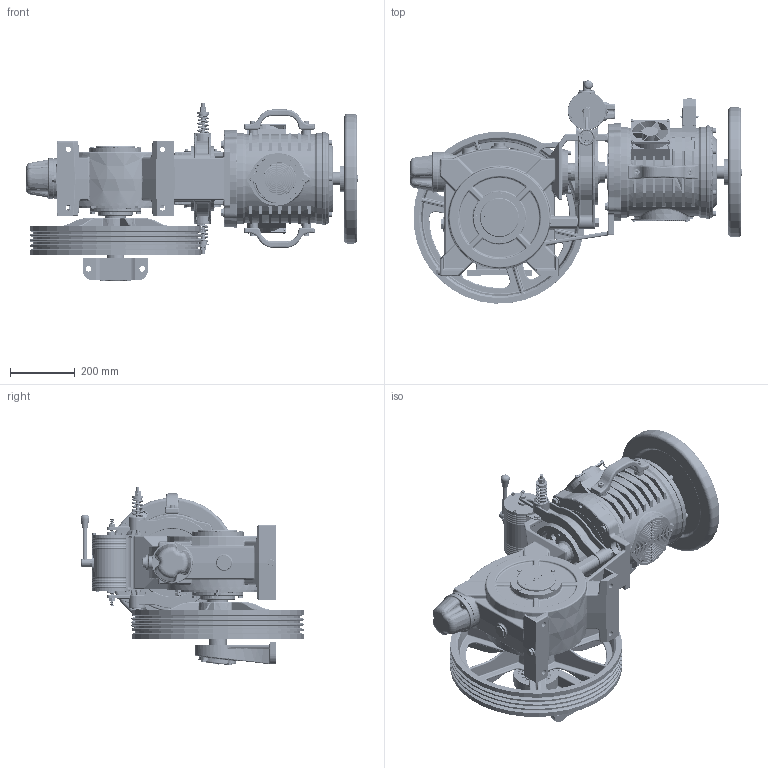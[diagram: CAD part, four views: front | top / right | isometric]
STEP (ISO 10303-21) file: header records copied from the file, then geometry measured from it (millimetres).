
FILE_DESCRIPTION (( 'STEP AP214' ), '1' );
FILE_NAME ('ELTC40100.STEP', '2026-01-20T05:51:05', ( '' ), ( '' ), 'SwSTEP 2.0', 'SolidWorks 2023', '' );
FILE_SCHEMA (( 'AUTOMOTIVE_DESIGN' ));
Length unit declared in the file: millimetre
Products named in the file (1): ELTC40100
Bounding box: 1022.68 x 687 x 549.43 mm (x, y, z)
Volume: 51149738.2 mm3; surface area: 5124593.3 mm2
Topology: 179 solids, 190 shells, 9916 faces, 24735 edges, 15209 vertices
Faces by surface type: cylinder 3512, plane 2808, bspline 1291, cone 1081, torus 993, sphere 231
Entity records: 555660 total; most frequent: CARTESIAN_POINT 333639, ORIENTED_EDGE 48878, DIRECTION 43080, EDGE_CURVE 24439, AXIS2_PLACEMENT_3D 17026, VERTEX_POINT 15197, EDGE_LOOP 10828, FACE_OUTER_BOUND 9916
